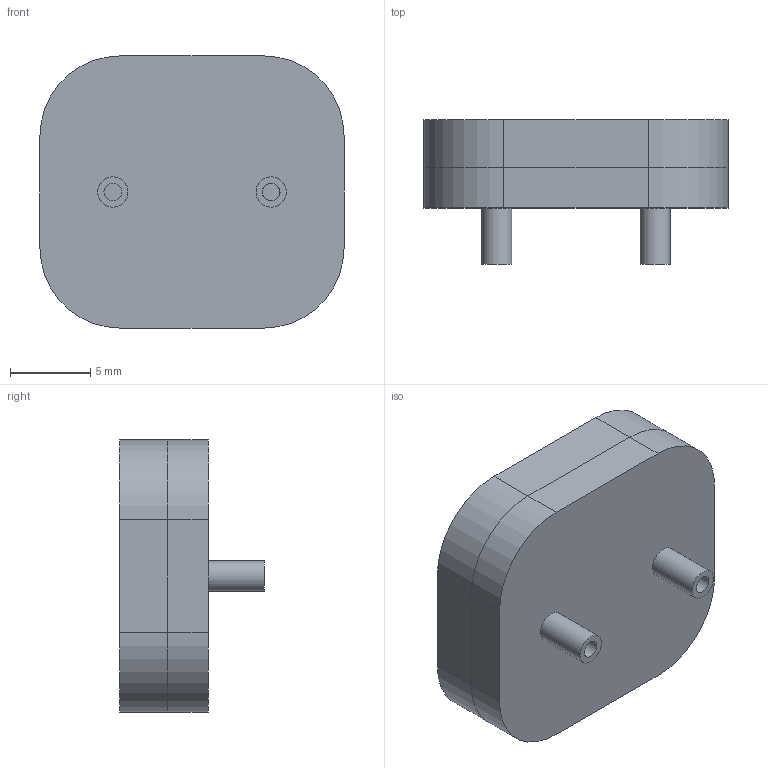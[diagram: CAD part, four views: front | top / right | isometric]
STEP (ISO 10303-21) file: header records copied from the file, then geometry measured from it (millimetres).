
FILE_DESCRIPTION (( 'STEP AP214' ), '1' );
FILE_NAME ('mp-damper.STEP', '2022-02-01T16:27:50', ( '' ), ( '' ), 'SwSTEP 2.0', 'SolidWorks 2018', '' );
FILE_SCHEMA (( 'AUTOMOTIVE_DESIGN' ));
Length unit declared in the file: millimetre
Products named in the file (4): mp-damper_Body; mp-damper_Deckel; Membran; mp-damper
Assembly tree (3 placements, depth 2):
  mp-damper
    mp-damper_Body
    Membran
    mp-damper_Deckel
Bounding box: 19 x 9 x 17 mm (x, y, z)
Volume: 1497.5 mm3; surface area: 1987.5 mm2
Topology: 3 solids, 3 shells, 35 faces, 76 edges, 50 vertices
Faces by surface type: plane 19, cylinder 16
Full cylindrical faces by diameter (mm): 1.1 x2, 1.9 x2, 11 x2, 13.2 x1, 13.5 x1
Entity records: 1062 total; most frequent: DIRECTION 180, CARTESIAN_POINT 153, ORIENTED_EDGE 130, AXIS2_PLACEMENT_3D 74, EDGE_CURVE 65, EDGE_LOOP 50, VERTEX_POINT 47, FACE_OUTER_BOUND 43
